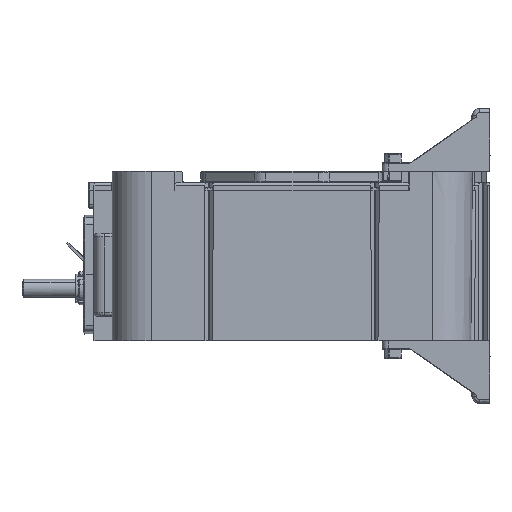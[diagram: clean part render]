
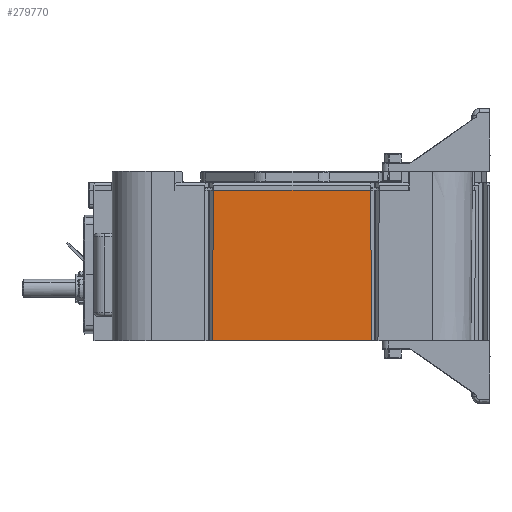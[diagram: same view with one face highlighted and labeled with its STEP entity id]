
A CAD part, left-side view. The second image highlights one B-rep face of the part: STEP entity #279770.
In plain terms, the highlighted planar face has unit normal (-1, 0, -0.009).
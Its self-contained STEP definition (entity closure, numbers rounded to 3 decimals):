
#150180=CARTESIAN_POINT('',(-49.264,23.425,
-7.85));
#150190=VERTEX_POINT('',#150180);
#150220=CARTESIAN_POINT('',(-49.264,0.,-7.85));
#150230=DIRECTION('',(0.,-1.,0.));
#150240=VECTOR('',#150230,1.);
#150250=LINE('',#150220,#150240);
#150260=CARTESIAN_POINT('',(-49.264,-20.904,
-7.85));
#150270=VERTEX_POINT('',#150260);
#150280=EDGE_CURVE('',#150190,#150270,#150250,.T.);
#279170=CARTESIAN_POINT('',(-49.628,23.06,33.95));
#279180=VERTEX_POINT('',#279170);
#279210=CARTESIAN_POINT('',(-49.628,23.06,33.95));
#279220=DIRECTION('',(0.009,0.009,
-1.));
#279230=VECTOR('',#279220,1.);
#279240=LINE('',#279210,#279230);
#279250=EDGE_CURVE('',#279180,#150190,#279240,.T.);
#279540=CARTESIAN_POINT('',(-49.628,33.81,33.95));
#279550=DIRECTION('',(-1.,0.,-0.009));
#279560=DIRECTION('',(0.,1.,0.));
#279570=AXIS2_PLACEMENT_3D('',#279540,#279550,#279560);
#279580=PLANE('',#279570);
#279590=CARTESIAN_POINT('',(-49.628,0.,33.95));
#279600=DIRECTION('',(-0.,-1.,0.));
#279610=VECTOR('',#279600,1.);
#279620=LINE('',#279590,#279610);
#279630=CARTESIAN_POINT('',(-49.628,-20.54,33.95));
#279640=VERTEX_POINT('',#279630);
#279650=EDGE_CURVE('',#279180,#279640,#279620,.T.);
#279660=ORIENTED_EDGE('',*,*,#279650,.F.);
#279670=CARTESIAN_POINT('',(-49.628,-20.54,33.95));
#279680=DIRECTION('',(-0.009,0.009,
1.));
#279690=VECTOR('',#279680,1.);
#279700=LINE('',#279670,#279690);
#279710=EDGE_CURVE('',#150270,#279640,#279700,.T.);
#279720=ORIENTED_EDGE('',*,*,#279710,.T.);
#279730=ORIENTED_EDGE('',*,*,#150280,.T.);
#279740=ORIENTED_EDGE('',*,*,#279250,.T.);
#279750=EDGE_LOOP('',(#279740,#279730,#279720,#279660));
#279760=FACE_OUTER_BOUND('',#279750,.T.);
#279770=ADVANCED_FACE('',(#279760),#279580,.T.);
